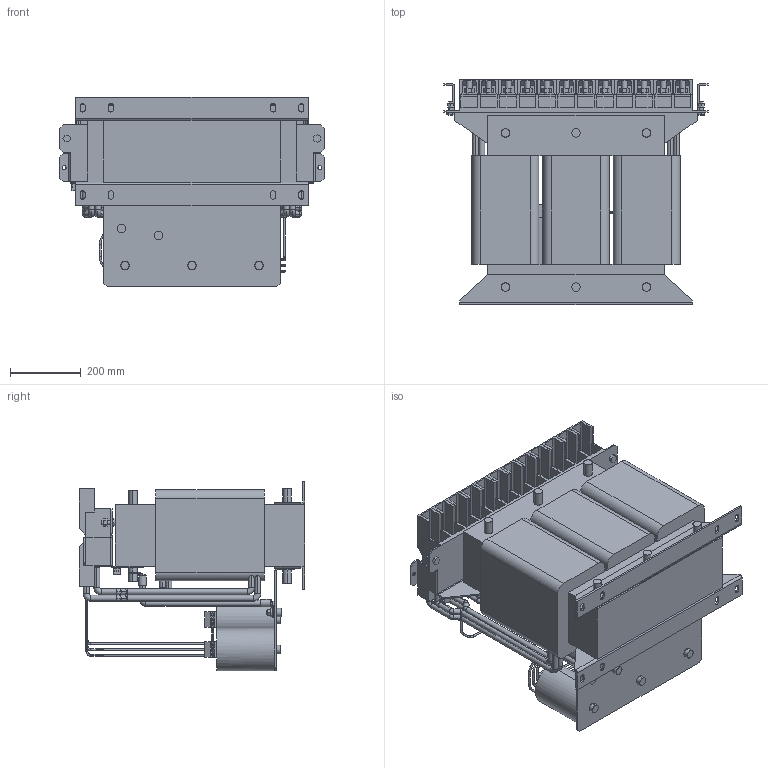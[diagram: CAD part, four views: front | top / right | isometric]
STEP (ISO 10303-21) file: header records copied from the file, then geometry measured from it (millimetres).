
FILE_DESCRIPTION (( 'STEP AP214' ), '1' );
FILE_NAME ('Kundenmodell 31Z1G04-1000^10072105_0001.STEP', '2022-11-21T14:17:17', ( '' ), ( '' ), 'SwSTEP 2.0', 'SolidWorks 2022', '' );
FILE_SCHEMA (( 'AUTOMOTIVE_DESIGN' ));
Length unit declared in the file: centimetre
Products named in the file (1): Kundenmodell 31Z1G04-1000^10072105_0001
Bounding box: 750 x 639.73 x 537.55 mm (x, y, z)
Volume: 86846202.4 mm3; surface area: 3909578.4 mm2
Topology: 1 solids, 1 shells, 1597 faces, 4273 edges, 2734 vertices
Faces by surface type: plane 829, cylinder 513, torus 226, bspline 29
Entity records: 53522 total; most frequent: CARTESIAN_POINT 12496, DIRECTION 8639, ORIENTED_EDGE 8546, EDGE_CURVE 4273, AXIS2_PLACEMENT_3D 3011, VERTEX_POINT 2734, LINE 2617, VECTOR 2617
